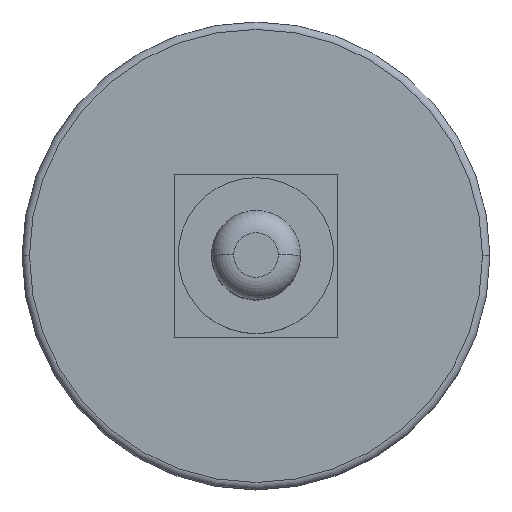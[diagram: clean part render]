
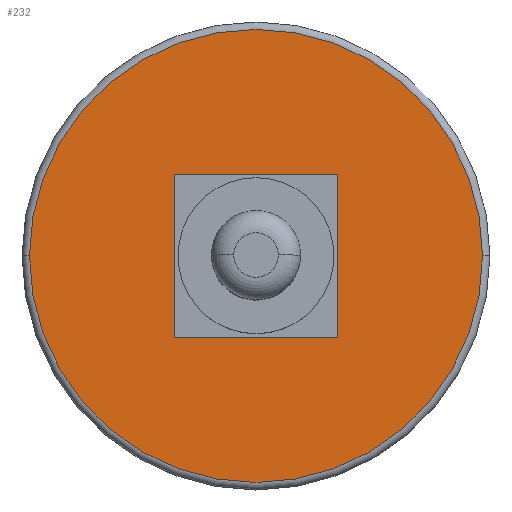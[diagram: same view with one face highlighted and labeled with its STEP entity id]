
A CAD part, top view. The second image highlights one B-rep face of the part: STEP entity #232.
In plain terms, the highlighted planar face has unit normal (0, 0, 1).
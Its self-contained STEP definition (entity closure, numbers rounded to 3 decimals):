
#7 = AXIS2_PLACEMENT_3D ( 'NONE', #146, #143, #139 ) ;
#10 = VERTEX_POINT ( 'NONE', #203 ) ;
#18 = EDGE_CURVE ( 'NONE', #77, #441, #141, .T. ) ;
#21 = AXIS2_PLACEMENT_3D ( 'NONE', #575, #329, #102 ) ;
#77 = VERTEX_POINT ( 'NONE', #168 ) ;
#81 = CIRCLE ( 'NONE', #21, 30.5 ) ;
#85 = EDGE_CURVE ( 'NONE', #10, #593, #534, .T. ) ;
#94 = FACE_OUTER_BOUND ( 'NONE', #212, .T. ) ;
#102 = DIRECTION ( 'NONE',  ( 1., 0., 0. ) ) ;
#104 = LINE ( 'NONE', #142, #543 ) ;
#105 = DIRECTION ( 'NONE',  ( 1., 0., 0. ) ) ;
#124 = CARTESIAN_POINT ( 'NONE',  ( -11., -11., 10. ) ) ;
#139 = DIRECTION ( 'NONE',  ( 1., 0., 0. ) ) ;
#141 = CIRCLE ( 'NONE', #589, 30.5 ) ;
#142 = CARTESIAN_POINT ( 'NONE',  ( 11., 11., 10. ) ) ;
#143 = DIRECTION ( 'NONE',  ( 0., 0., 1. ) ) ;
#146 = CARTESIAN_POINT ( 'NONE',  ( 0., 0., 10. ) ) ;
#155 = CARTESIAN_POINT ( 'NONE',  ( 0., 0., 10. ) ) ;
#159 = VERTEX_POINT ( 'NONE', #261 ) ;
#168 = CARTESIAN_POINT ( 'NONE',  ( -30.5, 0., 10. ) ) ;
#178 = FACE_BOUND ( 'NONE', #473, .T. ) ;
#186 = DIRECTION ( 'NONE',  ( -1., 0., 0. ) ) ;
#203 = CARTESIAN_POINT ( 'NONE',  ( -11., -11., 10. ) ) ;
#212 = EDGE_LOOP ( 'NONE', ( #529, #378 ) ) ;
#232 = ADVANCED_FACE ( 'NONE', ( #94, #178 ), #314, .T. ) ;
#237 = ORIENTED_EDGE ( 'NONE', *, *, #85, .F. ) ;
#244 = ORIENTED_EDGE ( 'NONE', *, *, #295, .F. ) ;
#261 = CARTESIAN_POINT ( 'NONE',  ( -11., 11., 10. ) ) ;
#294 = CARTESIAN_POINT ( 'NONE',  ( -11., 11., 10. ) ) ;
#295 = EDGE_CURVE ( 'NONE', #159, #10, #343, .T. ) ;
#301 = DIRECTION ( 'NONE',  ( 1., 0., 0. ) ) ;
#313 = LINE ( 'NONE', #457, #568 ) ;
#314 = PLANE ( 'NONE',  #7 ) ;
#316 = VECTOR ( 'NONE', #526, 1000. ) ;
#324 = CARTESIAN_POINT ( 'NONE',  ( 30.5, 0., 10. ) ) ;
#329 = DIRECTION ( 'NONE',  ( 0., 0., 1. ) ) ;
#343 = LINE ( 'NONE', #294, #316 ) ;
#378 = ORIENTED_EDGE ( 'NONE', *, *, #18, .T. ) ;
#385 = DIRECTION ( 'NONE',  ( 0., 0., 1. ) ) ;
#393 = ORIENTED_EDGE ( 'NONE', *, *, #505, .F. ) ;
#405 = EDGE_CURVE ( 'NONE', #441, #77, #81, .T. ) ;
#441 = VERTEX_POINT ( 'NONE', #324 ) ;
#457 = CARTESIAN_POINT ( 'NONE',  ( -11., 11., 10. ) ) ;
#473 = EDGE_LOOP ( 'NONE', ( #486, #237, #244, #393 ) ) ;
#486 = ORIENTED_EDGE ( 'NONE', *, *, #551, .F. ) ;
#505 = EDGE_CURVE ( 'NONE', #523, #159, #313, .T. ) ;
#516 = VECTOR ( 'NONE', #301, 1000. ) ;
#523 = VERTEX_POINT ( 'NONE', #598 ) ;
#526 = DIRECTION ( 'NONE',  ( 0., -1., 0. ) ) ;
#529 = ORIENTED_EDGE ( 'NONE', *, *, #405, .T. ) ;
#534 = LINE ( 'NONE', #124, #516 ) ;
#543 = VECTOR ( 'NONE', #581, 1000. ) ;
#551 = EDGE_CURVE ( 'NONE', #593, #523, #104, .T. ) ;
#559 = CARTESIAN_POINT ( 'NONE',  ( 11., -11., 10. ) ) ;
#568 = VECTOR ( 'NONE', #186, 1000. ) ;
#575 = CARTESIAN_POINT ( 'NONE',  ( 0., 0., 10. ) ) ;
#581 = DIRECTION ( 'NONE',  ( 0., 1., 0. ) ) ;
#589 = AXIS2_PLACEMENT_3D ( 'NONE', #155, #385, #105 ) ;
#593 = VERTEX_POINT ( 'NONE', #559 ) ;
#598 = CARTESIAN_POINT ( 'NONE',  ( 11., 11., 10. ) ) ;
